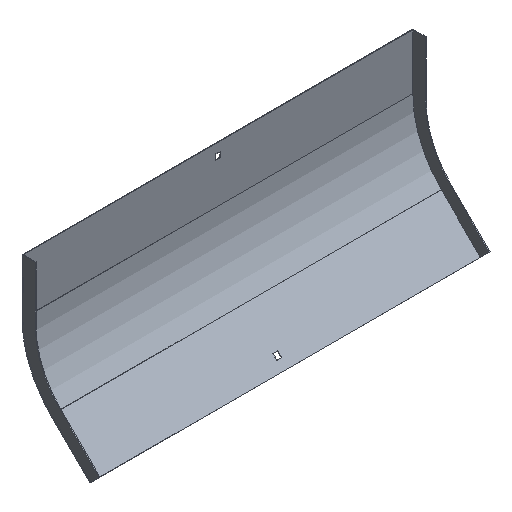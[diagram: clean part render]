
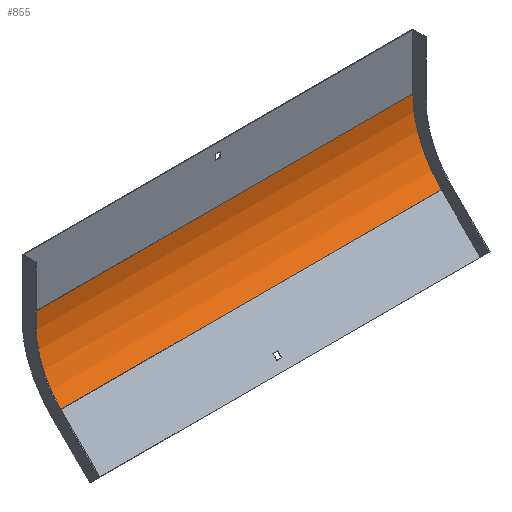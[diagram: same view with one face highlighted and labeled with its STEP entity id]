
A CAD part, isometric view. The second image highlights one B-rep face of the part: STEP entity #855.
In plain terms, the highlighted cylindrical face has radius 125 mm (diameter 250 mm), a partial arc.
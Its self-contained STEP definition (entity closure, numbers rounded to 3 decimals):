
#57 = VECTOR ( 'NONE', #467, 1000. ) ;
#80 = DIRECTION ( 'NONE',  ( 1., 0., 0. ) ) ;
#82 = ORIENTED_EDGE ( 'NONE', *, *, #830, .T. ) ;
#128 = DIRECTION ( 'NONE',  ( -1., 0., 0. ) ) ;
#132 = LINE ( 'NONE', #543, #57 ) ;
#135 = CARTESIAN_POINT ( 'NONE',  ( 250., -37.612, -159.388 ) ) ;
#195 = CARTESIAN_POINT ( 'NONE',  ( -250., -1., -71. ) ) ;
#248 = VERTEX_POINT ( 'NONE', #195 ) ;
#282 = EDGE_CURVE ( 'NONE', #440, #248, #728, .T. ) ;
#283 = EDGE_CURVE ( 'NONE', #649, #444, #132, .T. ) ;
#294 = CARTESIAN_POINT ( 'NONE',  ( 250., -1., -71. ) ) ;
#330 = DIRECTION ( 'NONE',  ( 0., 0., 1. ) ) ;
#336 = CARTESIAN_POINT ( 'NONE',  ( -250., -126., -71. ) ) ;
#352 = DIRECTION ( 'NONE',  ( 0., 0., 1. ) ) ;
#362 = ORIENTED_EDGE ( 'NONE', *, *, #677, .F. ) ;
#408 = DIRECTION ( 'NONE',  ( -1., 0., 0. ) ) ;
#418 = CARTESIAN_POINT ( 'NONE',  ( 250., -126., -71. ) ) ;
#440 = VERTEX_POINT ( 'NONE', #294 ) ;
#444 = VERTEX_POINT ( 'NONE', #812 ) ;
#463 = CIRCLE ( 'NONE', #847, 125. ) ;
#467 = DIRECTION ( 'NONE',  ( -1., 0., 0. ) ) ;
#512 = ORIENTED_EDGE ( 'NONE', *, *, #282, .T. ) ;
#525 = DIRECTION ( 'NONE',  ( 0., 0., 1. ) ) ;
#528 = FACE_OUTER_BOUND ( 'NONE', #556, .T. ) ;
#531 = CARTESIAN_POINT ( 'NONE',  ( 251., -1., -71. ) ) ;
#534 = DIRECTION ( 'NONE',  ( 1., 0., 0. ) ) ;
#543 = CARTESIAN_POINT ( 'NONE',  ( 251., -37.612, -159.388 ) ) ;
#549 = ORIENTED_EDGE ( 'NONE', *, *, #283, .F. ) ;
#556 = EDGE_LOOP ( 'NONE', ( #362, #549, #82, #512 ) ) ;
#630 = AXIS2_PLACEMENT_3D ( 'NONE', #680, #128, #352 ) ;
#649 = VERTEX_POINT ( 'NONE', #135 ) ;
#664 = CYLINDRICAL_SURFACE ( 'NONE', #630, 125. ) ;
#672 = AXIS2_PLACEMENT_3D ( 'NONE', #336, #80, #525 ) ;
#677 = EDGE_CURVE ( 'NONE', #444, #248, #846, .T. ) ;
#680 = CARTESIAN_POINT ( 'NONE',  ( 251., -126., -71. ) ) ;
#728 = LINE ( 'NONE', #531, #767 ) ;
#767 = VECTOR ( 'NONE', #408, 1000. ) ;
#812 = CARTESIAN_POINT ( 'NONE',  ( -250., -37.612, -159.388 ) ) ;
#830 = EDGE_CURVE ( 'NONE', #649, #440, #463, .T. ) ;
#846 = CIRCLE ( 'NONE', #672, 125. ) ;
#847 = AXIS2_PLACEMENT_3D ( 'NONE', #418, #534, #330 ) ;
#855 = ADVANCED_FACE ( 'NONE', ( #528 ), #664, .F. ) ;
